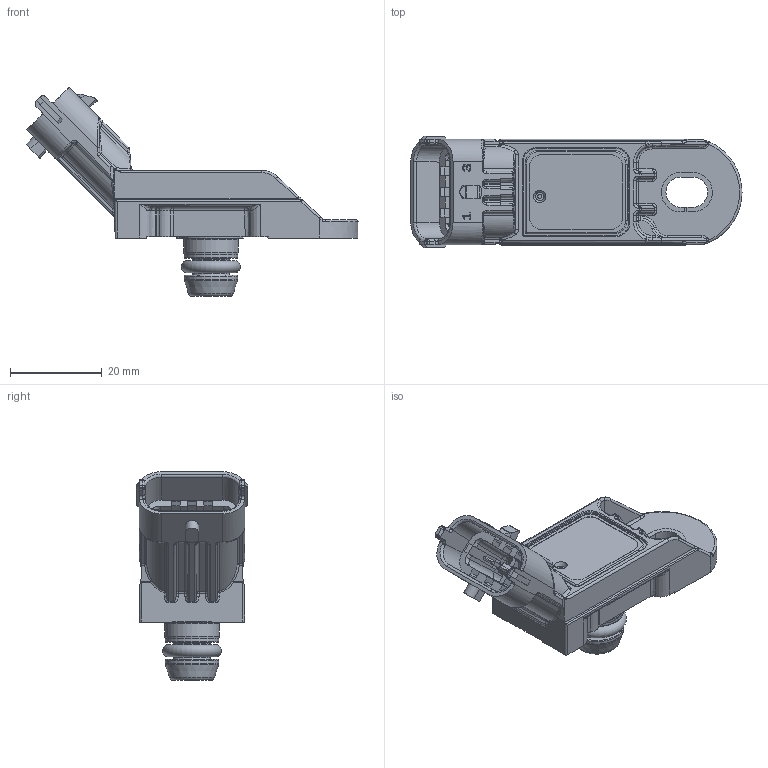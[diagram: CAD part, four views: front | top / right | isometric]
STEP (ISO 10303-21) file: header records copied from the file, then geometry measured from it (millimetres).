
FILE_DESCRIPTION(/* description */ (''),/* implementation_level */ '2;1');
FILE_NAME(/* name */ '0261a04270_a_02.stp',/* time_stamp */ '2018-01-31T09:43:34+01:00',/* author */ (''),/* organization */ (''),/* preprocessor_version */ 'ST-DEVELOPER v16',/* originating_system */ 'SIEMENS PLM Software NX 11.0',/* authorisation */ '');
FILE_SCHEMA (('AUTOMOTIVE_DESIGN { 1 0 10303 214 3 1 1 1 }'));
Length unit declared in the file: millimetre
Products named in the file (1): LEB2249C4827esx7
Bounding box: 72.22 x 24.3 x 45.43 mm (x, y, z)
Volume: 13310.2 mm3; surface area: 9353.6 mm2
Topology: 1 solids, 1 shells, 1403 faces, 3504 edges, 2042 vertices
Faces by surface type: plane 491, cylinder 399, bspline 193, sphere 142, extrusion 82, torus 67, cone 29
Full cylindrical faces by diameter (mm): 0.85 x1, 1 x6, 1.8 x1, 2.5 x1, 3 x1, 7.9 x2, 11.7 x2, 11.85 x1
Entity records: 44103 total; most frequent: CARTESIAN_POINT 12604, ORIENTED_EDGE 6692, DIRECTION 6319, EDGE_CURVE 3346, AXIS2_PLACEMENT_3D 2288, VERTEX_POINT 2013, VECTOR 1743, LINE 1661
